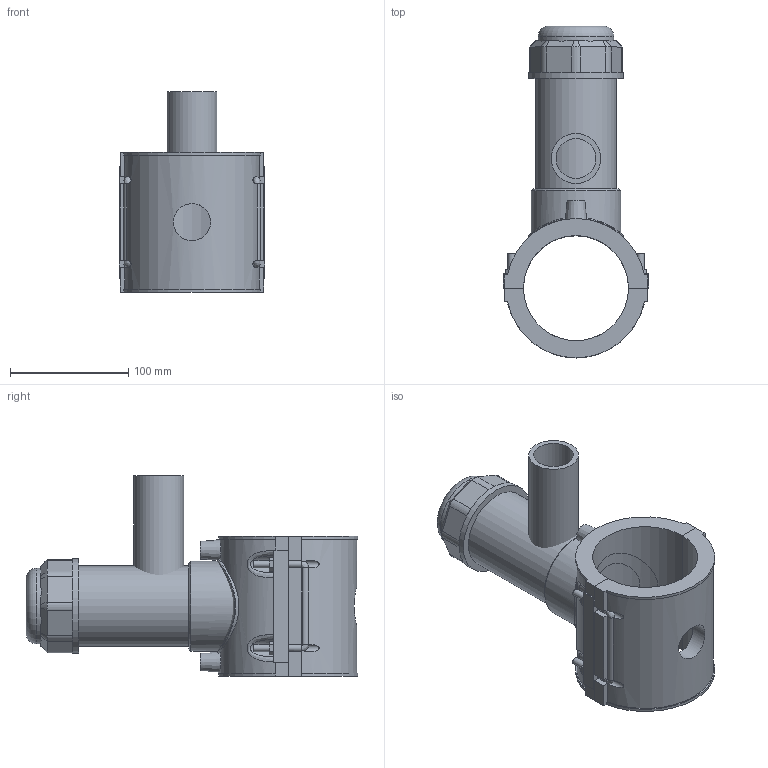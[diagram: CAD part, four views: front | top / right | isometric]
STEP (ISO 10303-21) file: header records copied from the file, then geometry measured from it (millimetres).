
FILE_DESCRIPTION(/* description */ ('PLASSON TAPPING SADDLE 3''''IPS x 1 1/4''''IPS'),/* implementation_level */ '2;1');
FILE_NAME(/* name */ 'C:\Dropbox\KIMPROJECTS-Inventor 2019\99-16-3568-Processing Inch\ASTM ElectroFusion 2021\5963BBP_5963BUP\5963BBP3030013.ipt.stp',/* time_stamp */ '2021-08-30T09:56:55+03:00',/* author */ ('KIM'),/* organization */ (''),/* preprocessor_version */ 'ST-DEVELOPER v17.2',/* originating_system */ 'Autodesk Inventor 2019',/* authorisation */ '');
FILE_SCHEMA (('AUTOMOTIVE_DESIGN { 1 0 10303 214 3 1 1 }'));
Length unit declared in the file: inch
Products named in the file (1): 5963BBP3030013
Bounding box: 122.9 x 280.2 x 169.04 mm (x, y, z)
Volume: 967380.1 mm3; surface area: 205656.2 mm2
Topology: 3 solids, 3 shells, 204 faces, 543 edges, 356 vertices
Faces by surface type: plane 125, cylinder 53, cone 15, bspline 10, torus 1
Full cylindrical faces by diameter (mm): 4 x2, 6 x8, 10 x2, 31.36 x1, 33.68 x1, 42.1 x1, 55.881 x1, 63.864 x1, 67.856 x1, 75.839 x1, 79.83 x1
Entity records: 7875 total; most frequent: CARTESIAN_POINT 2739, ORIENTED_EDGE 1086, DIRECTION 1022, EDGE_CURVE 543, VERTEX_POINT 356, AXIS2_PLACEMENT_3D 351, LINE 320, VECTOR 320
